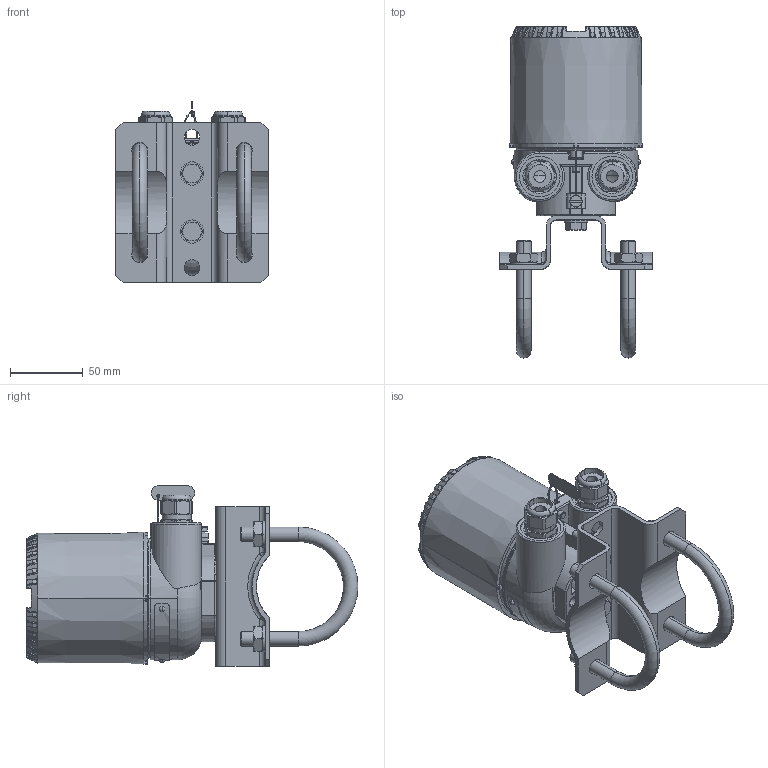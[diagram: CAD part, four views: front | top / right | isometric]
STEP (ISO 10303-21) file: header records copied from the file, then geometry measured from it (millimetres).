
FILE_DESCRIPTION((''),'2;1');
FILE_NAME('TTF300-CUSTOMER','2023-11-07T13:58:11',('DEU214042'),(''),'CREO PARAMETRIC BY PTC INC, 2020281','CREO PARAMETRIC BY PTC INC, 2020281','');
FILE_SCHEMA(('CONFIG_CONTROL_DESIGN'));
Products named in the file (1): TTF300-CUSTOMER
Bounding box: 105 x 228.7 x 124.5 mm (x, y, z)
Surface area: 232030.2 mm2 (no closed solid volume)
Topology: 0 solids, 65 shells, 2913 faces, 7478 edges, 4835 vertices
Faces by surface type: plane 1787, cylinder 555, cone 239, torus 177, bspline 123, sphere 32
Entity records: 95809 total; most frequent: CARTESIAN_POINT 25777, ORIENTED_EDGE 14928, DIRECTION 13881, EDGE_CURVE 7464, VERTEX_POINT 4835, VECTOR 4733, LINE 4733, AXIS2_PLACEMENT_3D 4574
